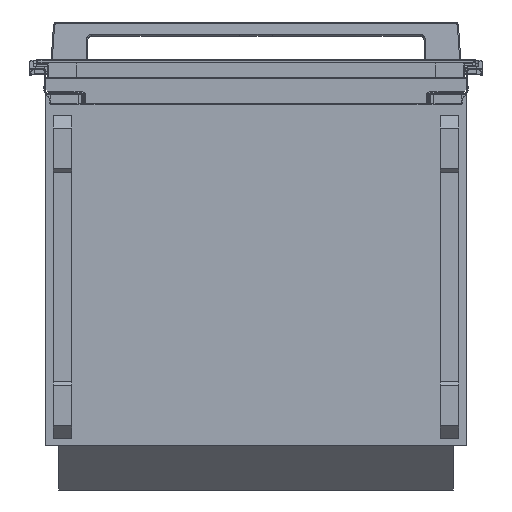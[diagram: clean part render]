
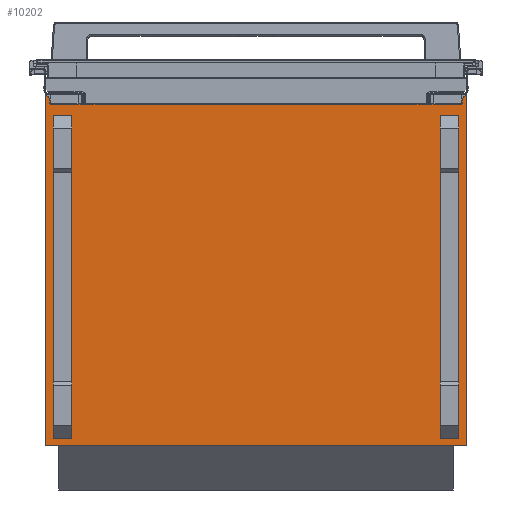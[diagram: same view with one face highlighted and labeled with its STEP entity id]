
A CAD part, front view. The second image highlights one B-rep face of the part: STEP entity #10202.
In plain terms, the highlighted planar face has unit normal (0, -1, 0).
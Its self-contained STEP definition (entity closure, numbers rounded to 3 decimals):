
#172 = DIRECTION ( 'NONE',  ( 0., 1., 0. ) ) ;
#389 = VECTOR ( 'NONE', #22184, 1000. ) ;
#525 = FACE_OUTER_BOUND ( 'NONE', #6118, .T. ) ;
#658 = CARTESIAN_POINT ( 'NONE',  ( 277.55, 87.543, 30.293 ) ) ;
#754 = ORIENTED_EDGE ( 'NONE', *, *, #15264, .F. ) ;
#1018 = VECTOR ( 'NONE', #2005, 1000. ) ;
#1158 = VECTOR ( 'NONE', #19353, 1000. ) ;
#1308 = CARTESIAN_POINT ( 'NONE',  ( -267.5, 87.543, 39.793 ) ) ;
#1419 = VERTEX_POINT ( 'NONE', #20334 ) ;
#2005 = DIRECTION ( 'NONE',  ( 0., 0., 1. ) ) ;
#2103 = VERTEX_POINT ( 'NONE', #22834 ) ;
#2231 = LINE ( 'NONE', #3515, #20620 ) ;
#2349 = LINE ( 'NONE', #18445, #7042 ) ;
#2394 = ORIENTED_EDGE ( 'NONE', *, *, #17530, .F. ) ;
#2747 = CARTESIAN_POINT ( 'NONE',  ( -242.5, 87.543, 466.293 ) ) ;
#2893 = VECTOR ( 'NONE', #6264, 1000. ) ;
#3185 = EDGE_CURVE ( 'NONE', #9773, #16218, #11265, .T. ) ;
#3268 = EDGE_LOOP ( 'NONE', ( #754, #19415, #10338, #7610 ) ) ;
#3515 = CARTESIAN_POINT ( 'NONE',  ( -267.5, 87.543, 493.993 ) ) ;
#3567 = AXIS2_PLACEMENT_3D ( 'NONE', #15900, #172, #12547 ) ;
#3903 = CARTESIAN_POINT ( 'NONE',  ( 267.5, 87.543, 493.993 ) ) ;
#4453 = LINE ( 'NONE', #5973, #9204 ) ;
#5973 = CARTESIAN_POINT ( 'NONE',  ( -261.55, 87.543, 39.793 ) ) ;
#5983 = DIRECTION ( 'NONE',  ( -1., 0., 0. ) ) ;
#6118 = EDGE_LOOP ( 'NONE', ( #15514, #19170, #13687, #12382 ) ) ;
#6264 = DIRECTION ( 'NONE',  ( -1., 0., 0. ) ) ;
#6274 = VERTEX_POINT ( 'NONE', #10655 ) ;
#6328 = VECTOR ( 'NONE', #21722, 1000. ) ;
#6765 = EDGE_CURVE ( 'NONE', #16218, #17306, #10568, .T. ) ;
#6863 = VERTEX_POINT ( 'NONE', #9557 ) ;
#7042 = VECTOR ( 'NONE', #5983, 1000. ) ;
#7205 = LINE ( 'NONE', #13489, #16126 ) ;
#7208 = EDGE_LOOP ( 'NONE', ( #22370, #10960, #2394, #12478 ) ) ;
#7450 = LINE ( 'NONE', #3903, #6328 ) ;
#7610 = ORIENTED_EDGE ( 'NONE', *, *, #19808, .F. ) ;
#8211 = CARTESIAN_POINT ( 'NONE',  ( 242.5, 87.543, 493.993 ) ) ;
#8691 = CARTESIAN_POINT ( 'NONE',  ( 277.55, 87.543, 493.993 ) ) ;
#8737 = VERTEX_POINT ( 'NONE', #15127 ) ;
#9172 = VERTEX_POINT ( 'NONE', #16575 ) ;
#9204 = VECTOR ( 'NONE', #22079, 1000. ) ;
#9262 = LINE ( 'NONE', #8211, #9828 ) ;
#9371 = FACE_BOUND ( 'NONE', #7208, .T. ) ;
#9557 = CARTESIAN_POINT ( 'NONE',  ( 242.5, 87.543, 39.793 ) ) ;
#9773 = VERTEX_POINT ( 'NONE', #658 ) ;
#9828 = VECTOR ( 'NONE', #10007, 1000. ) ;
#9881 = LINE ( 'NONE', #12638, #1018 ) ;
#10007 = DIRECTION ( 'NONE',  ( 0., 0., -1. ) ) ;
#10202 = ADVANCED_FACE ( 'NONE', ( #23066, #9371, #525 ), #10759, .F. ) ;
#10338 = ORIENTED_EDGE ( 'NONE', *, *, #11958, .F. ) ;
#10568 = LINE ( 'NONE', #8691, #1158 ) ;
#10655 = CARTESIAN_POINT ( 'NONE',  ( -277.55, 87.543, 30.293 ) ) ;
#10685 = DIRECTION ( 'NONE',  ( 0., 0., -1. ) ) ;
#10759 = PLANE ( 'NONE',  #3567 ) ;
#10960 = ORIENTED_EDGE ( 'NONE', *, *, #21143, .T. ) ;
#11265 = LINE ( 'NONE', #12052, #20196 ) ;
#11568 = CARTESIAN_POINT ( 'NONE',  ( -261.55, 87.543, 466.293 ) ) ;
#11919 = EDGE_CURVE ( 'NONE', #6274, #17306, #9881, .T. ) ;
#11958 = EDGE_CURVE ( 'NONE', #18541, #8737, #14030, .T. ) ;
#12052 = CARTESIAN_POINT ( 'NONE',  ( 277.55, 87.543, 493.993 ) ) ;
#12382 = ORIENTED_EDGE ( 'NONE', *, *, #6765, .T. ) ;
#12478 = ORIENTED_EDGE ( 'NONE', *, *, #16338, .F. ) ;
#12547 = DIRECTION ( 'NONE',  ( 1., 0., 0. ) ) ;
#12638 = CARTESIAN_POINT ( 'NONE',  ( -277.55, 87.543, 493.993 ) ) ;
#12712 = EDGE_CURVE ( 'NONE', #1419, #9172, #2349, .T. ) ;
#12719 = CARTESIAN_POINT ( 'NONE',  ( -261.55, 87.543, 39.793 ) ) ;
#13489 = CARTESIAN_POINT ( 'NONE',  ( 277.55, 87.543, 30.293 ) ) ;
#13687 = ORIENTED_EDGE ( 'NONE', *, *, #3185, .T. ) ;
#14030 = LINE ( 'NONE', #12719, #23004 ) ;
#14505 = DIRECTION ( 'NONE',  ( 1., 0., 0. ) ) ;
#15049 = CARTESIAN_POINT ( 'NONE',  ( -242.5, 87.543, 493.993 ) ) ;
#15108 = LINE ( 'NONE', #15049, #389 ) ;
#15127 = CARTESIAN_POINT ( 'NONE',  ( -242.5, 87.543, 39.793 ) ) ;
#15264 = EDGE_CURVE ( 'NONE', #16967, #2103, #18206, .T. ) ;
#15273 = DIRECTION ( 'NONE',  ( -1., 0., 0. ) ) ;
#15514 = ORIENTED_EDGE ( 'NONE', *, *, #11919, .F. ) ;
#15900 = CARTESIAN_POINT ( 'NONE',  ( -261.55, 87.543, 493.993 ) ) ;
#16126 = VECTOR ( 'NONE', #15273, 1000. ) ;
#16218 = VERTEX_POINT ( 'NONE', #22210 ) ;
#16338 = EDGE_CURVE ( 'NONE', #9172, #6863, #9262, .T. ) ;
#16575 = CARTESIAN_POINT ( 'NONE',  ( 242.5, 87.543, 466.293 ) ) ;
#16905 = EDGE_CURVE ( 'NONE', #16967, #8737, #15108, .T. ) ;
#16967 = VERTEX_POINT ( 'NONE', #2747 ) ;
#17306 = VERTEX_POINT ( 'NONE', #19525 ) ;
#17530 = EDGE_CURVE ( 'NONE', #6863, #18286, #4453, .T. ) ;
#18206 = LINE ( 'NONE', #11568, #2893 ) ;
#18286 = VERTEX_POINT ( 'NONE', #22050 ) ;
#18445 = CARTESIAN_POINT ( 'NONE',  ( -261.55, 87.543, 466.293 ) ) ;
#18541 = VERTEX_POINT ( 'NONE', #1308 ) ;
#19170 = ORIENTED_EDGE ( 'NONE', *, *, #22427, .F. ) ;
#19353 = DIRECTION ( 'NONE',  ( -1., 0., 0. ) ) ;
#19415 = ORIENTED_EDGE ( 'NONE', *, *, #16905, .T. ) ;
#19525 = CARTESIAN_POINT ( 'NONE',  ( -277.55, 87.543, 493.993 ) ) ;
#19808 = EDGE_CURVE ( 'NONE', #2103, #18541, #2231, .T. ) ;
#20196 = VECTOR ( 'NONE', #20329, 1000. ) ;
#20329 = DIRECTION ( 'NONE',  ( 0., 0., 1. ) ) ;
#20334 = CARTESIAN_POINT ( 'NONE',  ( 267.5, 87.543, 466.293 ) ) ;
#20620 = VECTOR ( 'NONE', #10685, 1000. ) ;
#21143 = EDGE_CURVE ( 'NONE', #1419, #18286, #7450, .T. ) ;
#21722 = DIRECTION ( 'NONE',  ( 0., 0., -1. ) ) ;
#22050 = CARTESIAN_POINT ( 'NONE',  ( 267.5, 87.543, 39.793 ) ) ;
#22079 = DIRECTION ( 'NONE',  ( 1., 0., 0. ) ) ;
#22184 = DIRECTION ( 'NONE',  ( 0., 0., -1. ) ) ;
#22210 = CARTESIAN_POINT ( 'NONE',  ( 277.55, 87.543, 493.993 ) ) ;
#22370 = ORIENTED_EDGE ( 'NONE', *, *, #12712, .F. ) ;
#22427 = EDGE_CURVE ( 'NONE', #9773, #6274, #7205, .T. ) ;
#22834 = CARTESIAN_POINT ( 'NONE',  ( -267.5, 87.543, 466.293 ) ) ;
#23004 = VECTOR ( 'NONE', #14505, 1000. ) ;
#23066 = FACE_BOUND ( 'NONE', #3268, .T. ) ;
